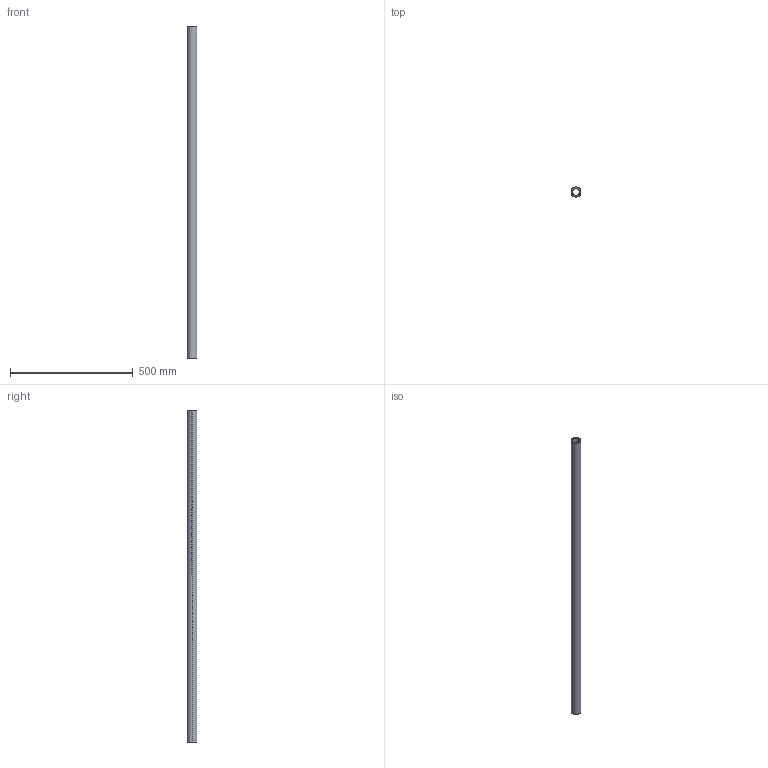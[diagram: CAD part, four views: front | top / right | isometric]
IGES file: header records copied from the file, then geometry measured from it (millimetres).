
Start section: SolidWorks IGES file using analytic representation for surfaces
Global section: file name: C:\Users\IanO\Desktop\L1771_v2\L1771.40_v2\L1771.40_v2_20230705_IGES\L1771.40-1350.igs; native system: SolidWorks 2019; preprocessor: SolidWorks 2019; author: IanO; date: 230705.160540; units: millimetre
Bounding box: 40 x 40 x 1350 mm (x, y, z)
Surface area: 289680 mm2 (no closed solid volume)
Topology: 0 solids, 0 shells, 6 faces, 272 edges, 272 vertices
Faces by surface type: revolution 4, bspline 2
